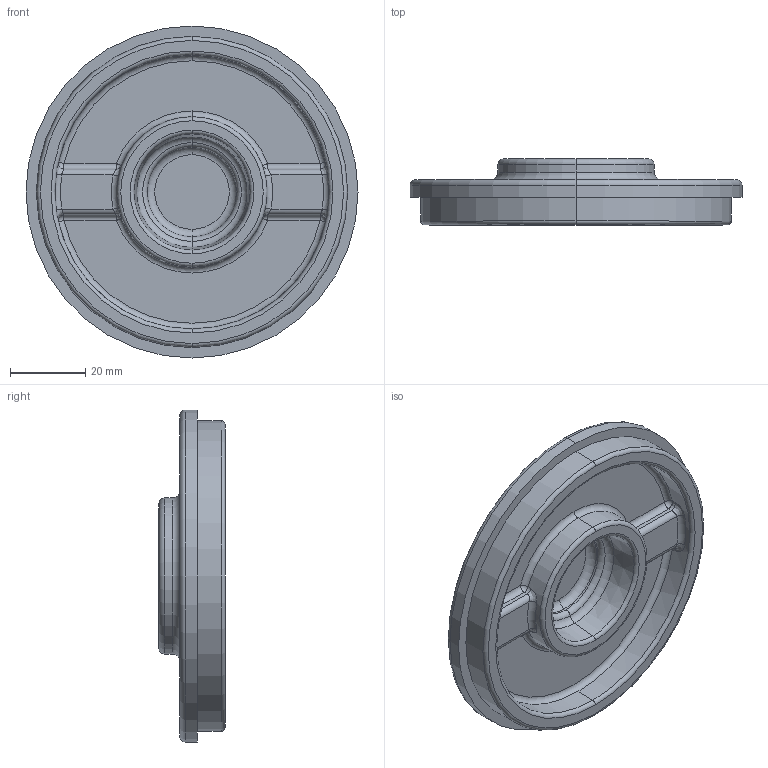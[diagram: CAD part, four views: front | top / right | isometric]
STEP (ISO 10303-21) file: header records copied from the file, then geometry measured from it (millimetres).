
FILE_DESCRIPTION (( 'STEP AP214' ), '1' );
FILE_NAME ('0806.STEP', '2026-08-06T02:27:29', ( '微软用户' ), ( '微软中国' ), 'SwSTEP 2.0', 'SolidWorks 2018', '' );
FILE_SCHEMA (( 'AUTOMOTIVE_DESIGN' ));
Length unit declared in the file: millimetre
Products named in the file (1): 0806
Bounding box: 88 x 17.5 x 88 mm (x, y, z)
Volume: 44888.4 mm3; surface area: 18852.4 mm2
Topology: 1 solids, 1 shells, 90 faces, 196 edges, 104 vertices
Faces by surface type: torus 30, bspline 16, plane 14, cylinder 12, cone 10, sphere 8
Entity records: 3060 total; most frequent: CARTESIAN_POINT 1151, DIRECTION 432, ORIENTED_EDGE 376, AXIS2_PLACEMENT_3D 201, EDGE_CURVE 188, CIRCLE 126, VERTEX_POINT 104, EDGE_LOOP 94
